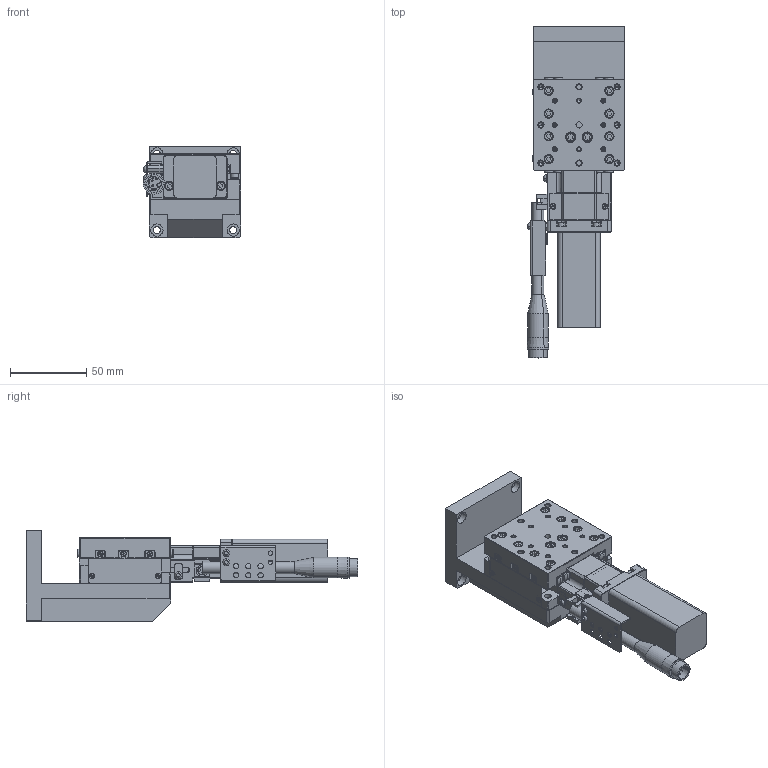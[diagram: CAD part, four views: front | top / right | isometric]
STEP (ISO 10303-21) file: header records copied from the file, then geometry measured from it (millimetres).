
FILE_DESCRIPTION (( 'STEP AP214' ), '1' );
FILE_NAME ('TZA6020B-L2-MC28L.STEP', '2025-01-03T10:30:59', ( '' ), ( '' ), 'SwSTEP 2.0', 'SolidWorks 2020', '' );
FILE_SCHEMA (( 'AUTOMOTIVE_DESIGN' ));
Length unit declared in the file: millimetre
Products named in the file (1): TZA6020B-L2-MC28L
Bounding box: 63.98 x 218 x 60 mm (x, y, z)
Volume: 285194.8 mm3; surface area: 103194 mm2
Topology: 80 solids, 80 shells, 3344 faces, 8230 edges, 5164 vertices
Faces by surface type: plane 1644, cylinder 868, cone 502, torus 176, bspline 154
Entity records: 143516 total; most frequent: CARTESIAN_POINT 26064, DIRECTION 16588, ORIENTED_EDGE 16304, EDGE_CURVE 8152, AXIS2_PLACEMENT_3D 5765, VERTEX_POINT 5164, VECTOR 5058, LINE 5058
